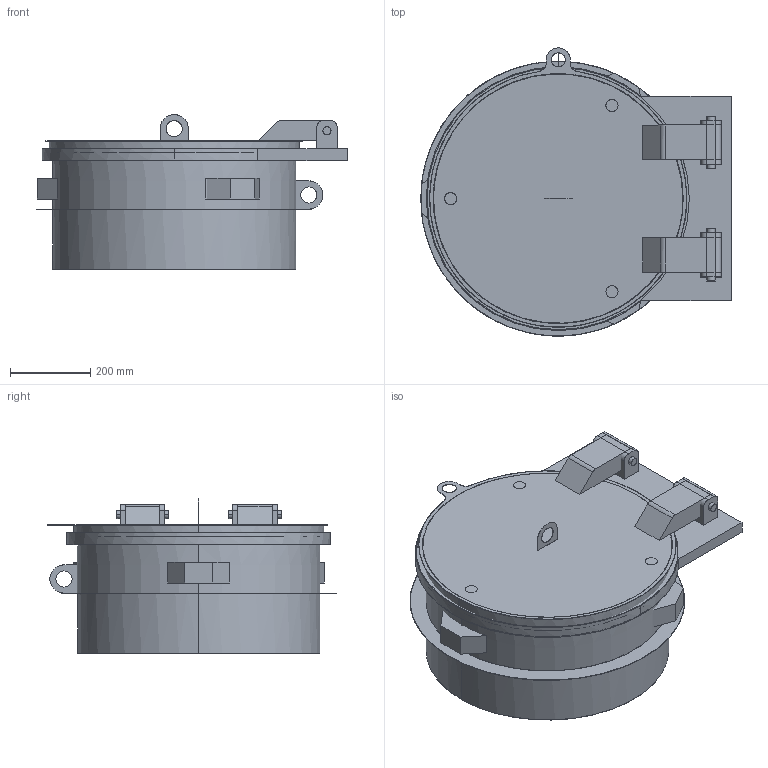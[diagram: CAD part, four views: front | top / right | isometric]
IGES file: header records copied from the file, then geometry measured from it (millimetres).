
Start section:  PTC IGES file: 52471606.igs
Global section: file name: 52471606.igs; native system: Creo Parametric by PTC Inc.; preprocessor: 2022162; author: stat; organization: Unknown; date: 20251030.082541; units: millimetre
Bounding box: 772.5 x 716.8 x 384.89 mm (x, y, z)
Surface area: 2942355.7 mm2 (no closed solid volume)
Topology: 0 solids, 0 shells, 180 faces, 832 edges, 832 vertices
Faces by surface type: bspline 110, revolution 70
